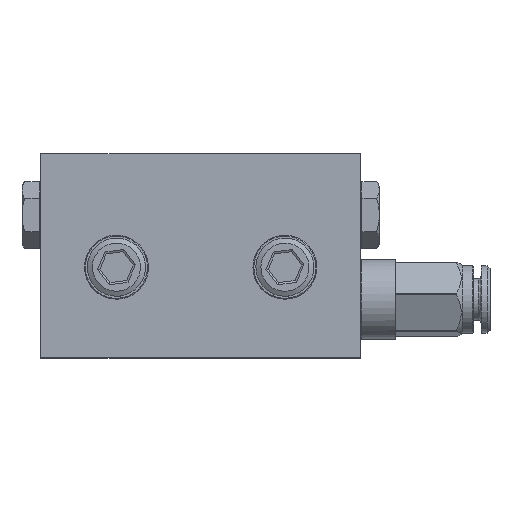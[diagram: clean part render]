
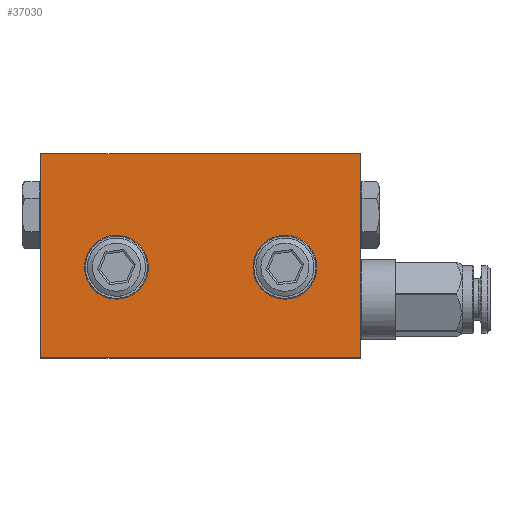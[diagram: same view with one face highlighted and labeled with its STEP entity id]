
A CAD part, top view. The second image highlights one B-rep face of the part: STEP entity #37030.
In plain terms, the highlighted planar face has unit normal (0, 0, 1) as drawn and (0, 0, -1) by its records, which use the part's own axes.
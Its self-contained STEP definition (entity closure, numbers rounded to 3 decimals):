
#106 = DIRECTION ( 'NONE',  ( -1., 0., 0. ) ) ;
#357 = VECTOR ( 'NONE', #106, 1000. ) ;
#1025 = CARTESIAN_POINT ( 'NONE',  ( 27.5, 0., -4.85 ) ) ;
#1794 = VERTEX_POINT ( 'NONE', #30210 ) ;
#2051 = VERTEX_POINT ( 'NONE', #16255 ) ;
#3229 = LINE ( 'NONE', #36706, #12785 ) ;
#3949 = CARTESIAN_POINT ( 'NONE',  ( 0., -35., -4.85 ) ) ;
#5522 = EDGE_LOOP ( 'NONE', ( #7632 ) ) ;
#6350 = DIRECTION ( 'NONE',  ( 1., 0., 0. ) ) ;
#7037 = EDGE_CURVE ( 'NONE', #36519, #36519, #17083, .T. ) ;
#7144 = ORIENTED_EDGE ( 'NONE', *, *, #26824, .F. ) ;
#7229 = VERTEX_POINT ( 'NONE', #18703 ) ;
#7632 = ORIENTED_EDGE ( 'NONE', *, *, #7037, .F. ) ;
#7853 = LINE ( 'NONE', #1025, #9593 ) ;
#8777 = FACE_BOUND ( 'NONE', #43060, .T. ) ;
#8912 = EDGE_CURVE ( 'NONE', #1794, #7229, #37426, .T. ) ;
#9288 = ORIENTED_EDGE ( 'NONE', *, *, #10595, .F. ) ;
#9593 = VECTOR ( 'NONE', #15916, 1000. ) ;
#10595 = EDGE_CURVE ( 'NONE', #7229, #2051, #7853, .T. ) ;
#10683 = CARTESIAN_POINT ( 'NONE',  ( 0., 0., -4.85 ) ) ;
#12785 = VECTOR ( 'NONE', #40600, 1000. ) ;
#13216 = DIRECTION ( 'NONE',  ( 0., 0., -1. ) ) ;
#13901 = DIRECTION ( 'NONE',  ( 0., 0., 1. ) ) ;
#14131 = FACE_OUTER_BOUND ( 'NONE', #33909, .T. ) ;
#14961 = ORIENTED_EDGE ( 'NONE', *, *, #8912, .F. ) ;
#15916 = DIRECTION ( 'NONE',  ( 0., 1., 0. ) ) ;
#16255 = CARTESIAN_POINT ( 'NONE',  ( 27.5, 0., -4.85 ) ) ;
#17083 = CIRCLE ( 'NONE', #38150, 3.1 ) ;
#17965 = CARTESIAN_POINT ( 'NONE',  ( 11.4, -15.5, -4.85 ) ) ;
#18703 = CARTESIAN_POINT ( 'NONE',  ( 27.5, -35., -4.85 ) ) ;
#21835 = ORIENTED_EDGE ( 'NONE', *, *, #26036, .F. ) ;
#22217 = AXIS2_PLACEMENT_3D ( 'NONE', #10683, #13901, #40524 ) ;
#26036 = EDGE_CURVE ( 'NONE', #29201, #1794, #3229, .T. ) ;
#26149 = AXIS2_PLACEMENT_3D ( 'NONE', #46909, #13216, #6350 ) ;
#26381 = EDGE_CURVE ( 'NONE', #2051, #29201, #36991, .T. ) ;
#26824 = EDGE_CURVE ( 'NONE', #34946, #34946, #38621, .T. ) ;
#27612 = FACE_BOUND ( 'NONE', #5522, .T. ) ;
#29201 = VERTEX_POINT ( 'NONE', #45646 ) ;
#30154 = CARTESIAN_POINT ( 'NONE',  ( 0., 0., -4.85 ) ) ;
#30210 = CARTESIAN_POINT ( 'NONE',  ( -27.5, -35., -4.85 ) ) ;
#30570 = VECTOR ( 'NONE', #33747, 1000. ) ;
#31026 = CARTESIAN_POINT ( 'NONE',  ( -11.4, -15.5, -4.85 ) ) ;
#31780 = ORIENTED_EDGE ( 'NONE', *, *, #26381, .F. ) ;
#33747 = DIRECTION ( 'NONE',  ( 1., 0., 0. ) ) ;
#33909 = EDGE_LOOP ( 'NONE', ( #14961, #21835, #31780, #9288 ) ) ;
#34946 = VERTEX_POINT ( 'NONE', #31026 ) ;
#36519 = VERTEX_POINT ( 'NONE', #17965 ) ;
#36706 = CARTESIAN_POINT ( 'NONE',  ( -27.5, 0., -4.85 ) ) ;
#36991 = LINE ( 'NONE', #30154, #357 ) ;
#37030 = ADVANCED_FACE ( 'NONE', ( #8777, #27612, #14131 ), #40274, .F. ) ;
#37426 = LINE ( 'NONE', #3949, #30570 ) ;
#37719 = DIRECTION ( 'NONE',  ( 0., 0., -1. ) ) ;
#38150 = AXIS2_PLACEMENT_3D ( 'NONE', #44810, #37719, #44309 ) ;
#38621 = CIRCLE ( 'NONE', #26149, 3.1 ) ;
#40274 = PLANE ( 'NONE',  #22217 ) ;
#40524 = DIRECTION ( 'NONE',  ( 1., 0., 0. ) ) ;
#40600 = DIRECTION ( 'NONE',  ( 0., -1., 0. ) ) ;
#43060 = EDGE_LOOP ( 'NONE', ( #7144 ) ) ;
#44309 = DIRECTION ( 'NONE',  ( -1., 0., 0. ) ) ;
#44810 = CARTESIAN_POINT ( 'NONE',  ( 14.5, -15.5, -4.85 ) ) ;
#45646 = CARTESIAN_POINT ( 'NONE',  ( -27.5, 0., -4.85 ) ) ;
#46909 = CARTESIAN_POINT ( 'NONE',  ( -14.5, -15.5, -4.85 ) ) ;
